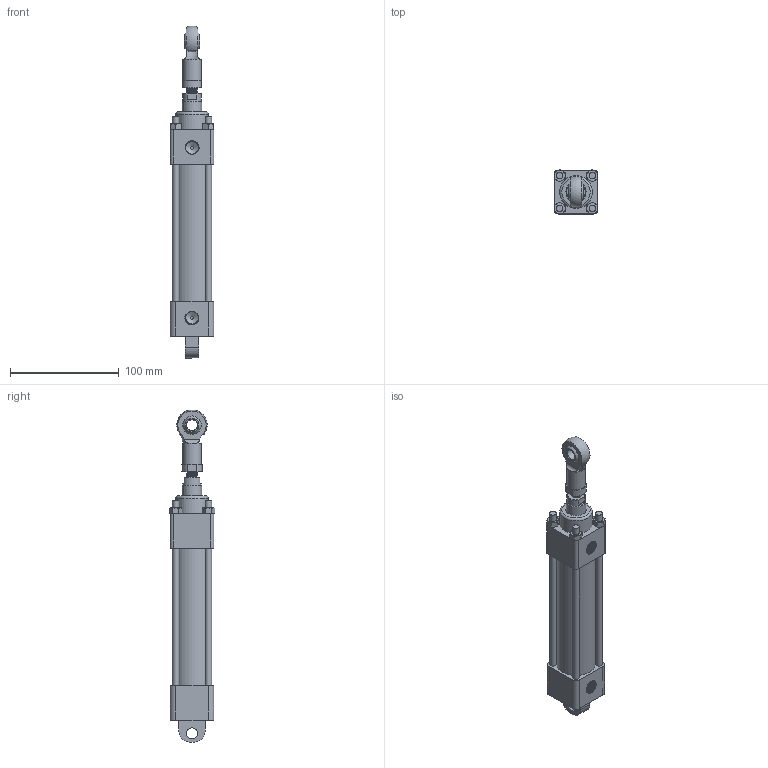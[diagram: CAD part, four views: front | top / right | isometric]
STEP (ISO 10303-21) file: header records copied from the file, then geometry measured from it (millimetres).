
FILE_DESCRIPTION(/* description */ (''),/* implementation_level */ '2;1');
FILE_NAME(/* name */ 'KHMC_25_18_100 v20.step',/* time_stamp */ '2024-02-04T13:00:43+03:00',/* author */ (''),/* organization */ (''),/* preprocessor_version */ 'ST-DEVELOPER v20',/* originating_system */ 'Autodesk Translation Framework v12.20.1.177',/* authorisation */ '');
FILE_SCHEMA (('AUTOMOTIVE_DESIGN { 1 0 10303 214 3 1 1 }'));
Products named in the file (26): KHMC_25_18_100; KHMC_32_ARKA_KAPAK; Bileşen1; 25_30_PASLANMAZ_BORU; Bileşen1_1; KHMC_32_18_ÖN_KAPAK; Bileşen1_2; 24_5-10-6; KHMC_PİSTON_1; Bileşen1_3; 18_K_MIL; Bileşen1_4; K15-14X25X4_2; K69-025/2 (25X22X4.2/4); 91028A111_JIS Hex Nut; PUL; Bileşen1_5; M6_SAPLAMA; 90591A151_Zinc-Plated Steel Hex Nut; 8411K331_Thrust-Rated Ball Joint Rod End; M6_SAPLAMA v1(Mirror); 90591A151_Zinc-Plated Steel Hex Nut(Mirror); M6_SAPLAMA v1(Mirror) (1); 90591A151_Zinc-Plated Steel Hex Nut(Mirror) (1); M6_SAPLAMA v1(Mirror)(Mirror); 90591A151_Zinc-Plated Steel Hex Nut(Mirror)(Mirror)
Assembly tree (25 placements, depth 3):
  KHMC_25_18_100
    KHMC_32_ARKA_KAPAK
      Bileşen1
    25_30_PASLANMAZ_BORU
      Bileşen1_1
    KHMC_32_18_ÖN_KAPAK
      Bileşen1_2
    24_5-10-6
    KHMC_PİSTON_1
      Bileşen1_3
    18_K_MIL
      Bileşen1_4
    K15-14X25X4_2
    K69-025/2 (25X22X4.2/4)
    91028A111_JIS Hex Nut
    PUL
      Bileşen1_5
    M6_SAPLAMA
    90591A151_Zinc-Plated Steel Hex Nut
    8411K331_Thrust-Rated Ball Joint Rod End
    M6_SAPLAMA v1(Mirror)
    90591A151_Zinc-Plated Steel Hex Nut(Mirror)
    M6_SAPLAMA v1(Mirror) (1)
    90591A151_Zinc-Plated Steel Hex Nut(Mirror) (1)
    M6_SAPLAMA v1(Mirror)(Mirror)
    90591A151_Zinc-Plated Steel Hex Nut(Mirror)(Mirror)
Bounding box: 40 x 41.55 x 304.9 mm (x, y, z)
Volume: 239987.9 mm3; surface area: 98541.9 mm2
Topology: 21 solids, 21 shells, 996 faces, 2603 edges, 1704 vertices
Faces by surface type: bspline 322, cylinder 293, plane 271, cone 100, torus 7, sphere 3
Full cylindrical faces by diameter (mm): 3 x2, 4.701 x12, 5.035 x4, 6 x20, 6.5 x4, 7.402 x9, 8.141 x28, 9.85 x37, 10 x19, 13.157 x10, 14 x1, 17 x2, 18 x3, 18.5 x1, 18.98 x2, 19.4 x1, 22 x1, 24.5 x5, 25 x2, 30 x1, 35 x3
Entity records: 61431 total; most frequent: CARTESIAN_POINT 39141, ORIENTED_EDGE 5198, DIRECTION 3373, EDGE_CURVE 2599, VERTEX_POINT 1704, AXIS2_PLACEMENT_3D 1204, EDGE_LOOP 1097, FACE_OUTER_BOUND 996
